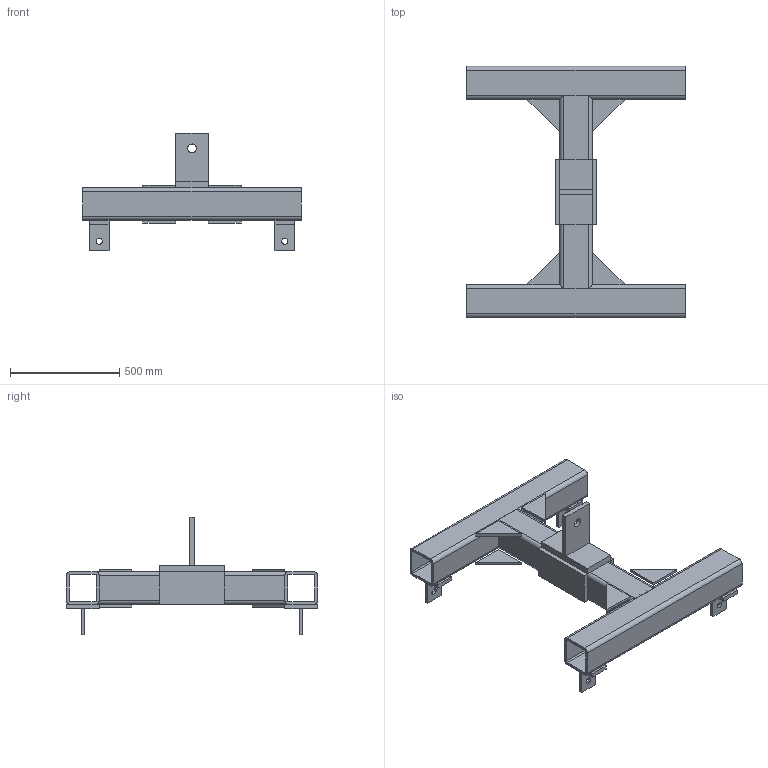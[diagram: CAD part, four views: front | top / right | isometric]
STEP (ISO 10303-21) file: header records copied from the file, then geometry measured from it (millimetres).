
FILE_DESCRIPTION(('Open CASCADE Model'),'2;1');
FILE_NAME('Open CASCADE Shape Model','2026-10-19T10:09:33',('Author'),( 'Open CASCADE'),'Open CASCADE STEP processor 8.0','Open CASCADE 8.0' ,'Unknown');
FILE_SCHEMA(('AUTOMOTIVE_DESIGN { 1 0 10303 214 1 1 1 1 }'));
Length unit declared in the file: millimetre
Products named in the file (24): CRUCETA_H_2t_P05 197; CRUCETA_H_2t_P05 197.1; CRUCETA_H_2t_P05 197.2; CRUCETA_H_2t_P05 197.3; CRUCETA_H_2t_P05 197.4; CRUCETA_H_2t_P05 197.5; CRUCETA_H_2t_P05 197.6; CRUCETA_H_2t_P05 197.7; CRUCETA_H_2t_P05 197.8; CRUCETA_H_2t_P05 197.9; CRUCETA_H_2t_P05 197.10; CRUCETA_H_2t_P05 197.11; CRUCETA_H_2t_P05 197.12; CRUCETA_H_2t_P05 197.13; CRUCETA_H_2t_P05 197.14; CRUCETA_H_2t_P05 197.15; CRUCETA_H_2t_P05 197.16; CRUCETA_H_2t_P05 197.17; CRUCETA_H_2t_P05 197.18; CRUCETA_H_2t_P05 197.19; CRUCETA_H_2t_P05 197.20; CRUCETA_H_2t_P05 197.21; CRUCETA_H_2t_P05 197.22; CRUCETA_H_2t_P05 197.23
Assembly tree (23 placements, depth 2):
  CRUCETA_H_2t_P05 197
    CRUCETA_H_2t_P05 197.1
    CRUCETA_H_2t_P05 197.2
    CRUCETA_H_2t_P05 197.3
    CRUCETA_H_2t_P05 197.4
    CRUCETA_H_2t_P05 197.5
    CRUCETA_H_2t_P05 197.6
    CRUCETA_H_2t_P05 197.7
    CRUCETA_H_2t_P05 197.8
    CRUCETA_H_2t_P05 197.9
    CRUCETA_H_2t_P05 197.10
    CRUCETA_H_2t_P05 197.11
    CRUCETA_H_2t_P05 197.12
    CRUCETA_H_2t_P05 197.13
    CRUCETA_H_2t_P05 197.14
    CRUCETA_H_2t_P05 197.15
    CRUCETA_H_2t_P05 197.16
    CRUCETA_H_2t_P05 197.17
    CRUCETA_H_2t_P05 197.18
    CRUCETA_H_2t_P05 197.19
    CRUCETA_H_2t_P05 197.20
    CRUCETA_H_2t_P05 197.21
    CRUCETA_H_2t_P05 197.22
    CRUCETA_H_2t_P05 197.23
Bounding box: 1000 x 1150 x 540 mm (x, y, z)
Volume: 25302095.9 mm3; surface area: 3963466.8 mm2
Topology: 23 solids, 23 shells, 177 faces, 383 edges, 250 vertices
Faces by surface type: plane 144, cylinder 33
Full cylindrical faces by diameter (mm): 28 x4, 40 x1
Entity records: 10538 total; most frequent: CARTESIAN_POINT 2088, DIRECTION 1561, LINE 1017, VECTOR 1017, ORIENTED_EDGE 766, PCURVE 766, DEFINITIONAL_REPRESENTATION 766, EDGE_CURVE 383
